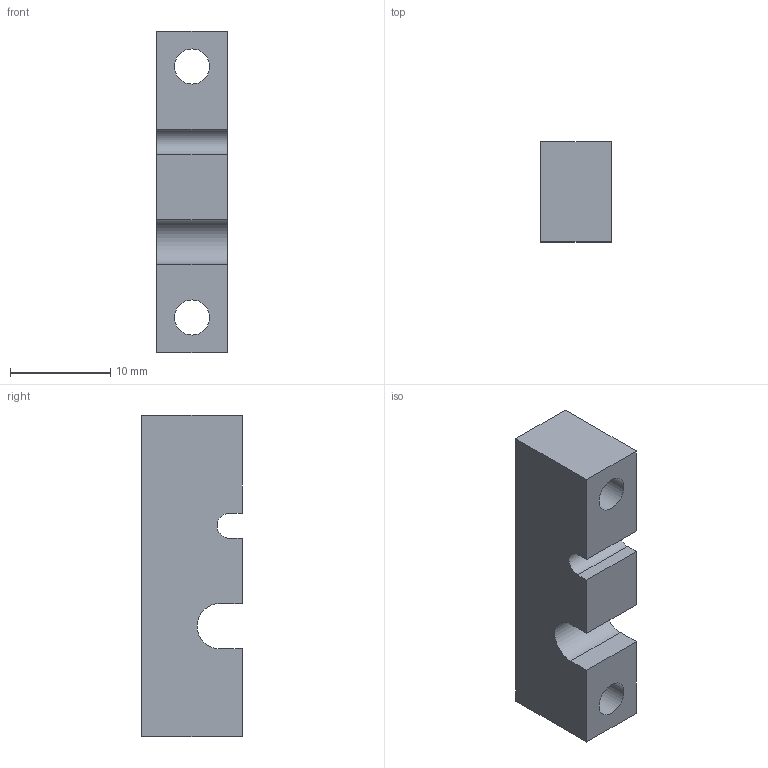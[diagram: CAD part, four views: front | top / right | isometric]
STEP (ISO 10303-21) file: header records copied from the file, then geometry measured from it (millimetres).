
FILE_DESCRIPTION(/* description */ (''),/* implementation_level */ '2;1');
FILE_NAME(/* name */ 'G:/NAS/EE/Projekte/Taster Selbsthaltung Xbox Adaptive Controller/Gehäuse/step export/Zugentlastung 2 v5.step',/* time_stamp */ '2021-01-21T17:19:16+01:00',/* author */ (''),/* organization */ (''),/* preprocessor_version */ 'ST-DEVELOPER v18.1',/* originating_system */ 'Autodesk Translation Framework v9.7.1.1290',/* authorisation */ '');
FILE_SCHEMA (('AUTOMOTIVE_DESIGN { 1 0 10303 214 3 1 1 }'));
Length unit declared in the file: millimetre
Products named in the file (1): Zugentlastung 2
Bounding box: 7 x 10 x 32 mm (x, y, z)
Volume: 1882 mm3; surface area: 1439.1 mm2
Topology: 1 solids, 1 shells, 16 faces, 42 edges, 28 vertices
Faces by surface type: plane 12, cylinder 4
Full cylindrical faces by diameter (mm): 3.5 x2
Entity records: 535 total; most frequent: CARTESIAN_POINT 87, ORIENTED_EDGE 84, DIRECTION 84, EDGE_CURVE 42, LINE 34, VECTOR 34, VERTEX_POINT 28, AXIS2_PLACEMENT_3D 25
